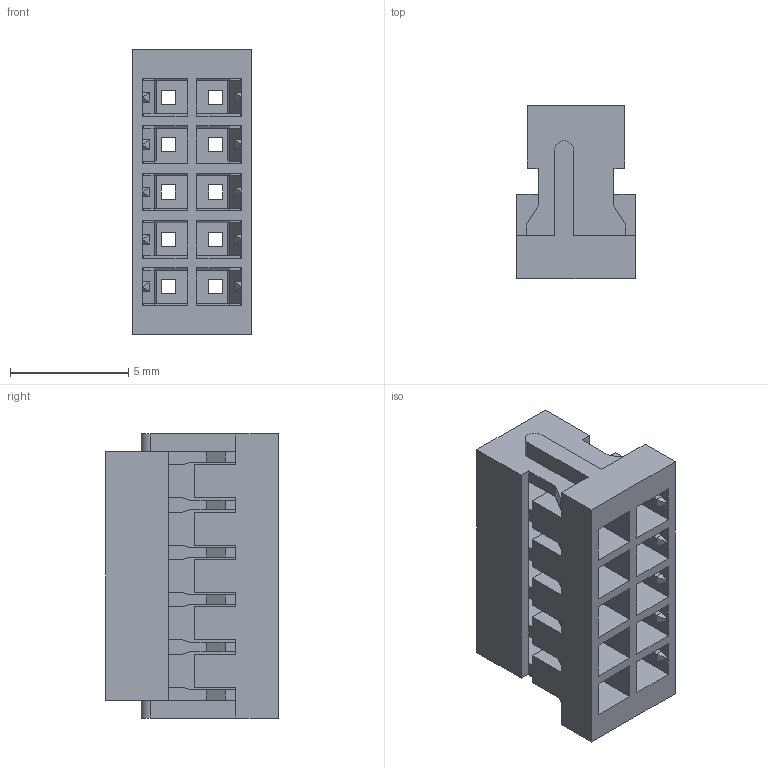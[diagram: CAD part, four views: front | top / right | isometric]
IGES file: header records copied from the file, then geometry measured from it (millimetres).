
Global section: file name: T:/3DWEB公開/NCW/DF11/DF11-#DS-C/DF11-10DS-2C, ; native system: SolidDesigner 12.00  10-Sep-2003; preprocessor: OneSpace IGES_3D V1.0; author: Unknown; organization: Unknown; date: 20070322.135743; units: millimetre
Bounding box: 5 x 7.3 x 12 mm (x, y, z)
Volume: 184.2 mm3; surface area: 780.1 mm2
Topology: 1 solids, 1 shells, 326 faces, 912 edges, 578 vertices
Faces by surface type: bspline 326
